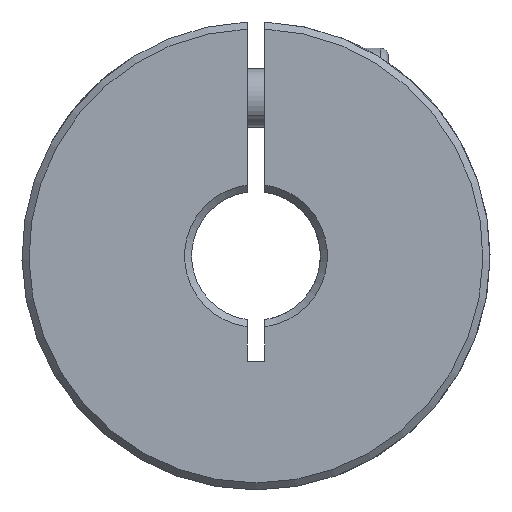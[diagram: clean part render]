
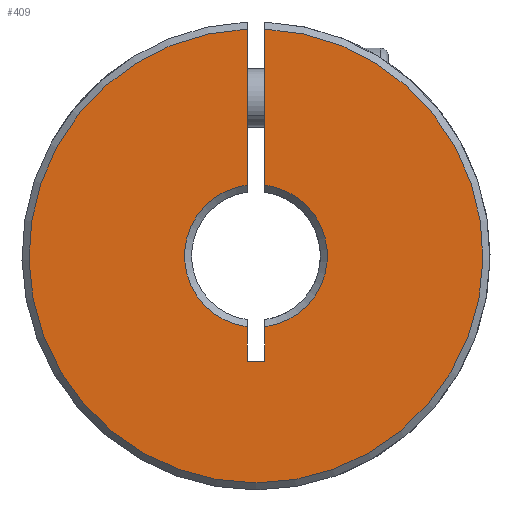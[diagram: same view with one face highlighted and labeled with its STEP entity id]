
A CAD part, front view. The second image highlights one B-rep face of the part: STEP entity #409.
In plain terms, the highlighted planar face has unit normal (0, -1, 0).
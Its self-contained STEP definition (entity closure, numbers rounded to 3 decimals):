
#32 = VERTEX_POINT ( 'NONE', #1285 ) ;
#354 = ORIENTED_EDGE ( 'NONE', *, *, #3869, .T. ) ;
#362 = DIRECTION ( 'NONE',  ( 0., 1., 0. ) ) ;
#372 = VECTOR ( 'NONE', #4100, 1000. ) ;
#395 = VERTEX_POINT ( 'NONE', #3963 ) ;
#409 = ADVANCED_FACE ( 'NONE', ( #3105 ), #5421, .F. ) ;
#468 = DIRECTION ( 'NONE',  ( 0., 0., -1. ) ) ;
#473 = LINE ( 'NONE', #4586, #372 ) ;
#527 = CARTESIAN_POINT ( 'NONE',  ( 0., -25., 0. ) ) ;
#556 = DIRECTION ( 'NONE',  ( 0., 0., 1. ) ) ;
#660 = DIRECTION ( 'NONE',  ( 0., 0., 1. ) ) ;
#698 = VERTEX_POINT ( 'NONE', #5739 ) ;
#835 = CARTESIAN_POINT ( 'NONE',  ( -0.75, -25., -9. ) ) ;
#937 = DIRECTION ( 'NONE',  ( 0., 0., 1. ) ) ;
#1014 = CIRCLE ( 'NONE', #4353, 6.1 ) ;
#1191 = LINE ( 'NONE', #835, #4418 ) ;
#1265 = VECTOR ( 'NONE', #660, 1000. ) ;
#1285 = CARTESIAN_POINT ( 'NONE',  ( -0.75, -25., -6.054 ) ) ;
#1354 = CARTESIAN_POINT ( 'NONE',  ( -0.75, -25., -9. ) ) ;
#1364 = ORIENTED_EDGE ( 'NONE', *, *, #3355, .T. ) ;
#1547 = AXIS2_PLACEMENT_3D ( 'NONE', #527, #3306, #556 ) ;
#1656 = VERTEX_POINT ( 'NONE', #1781 ) ;
#1671 = VERTEX_POINT ( 'NONE', #4898 ) ;
#1781 = CARTESIAN_POINT ( 'NONE',  ( 0.75, -25., 19.385 ) ) ;
#1842 = VERTEX_POINT ( 'NONE', #3813 ) ;
#2311 = ORIENTED_EDGE ( 'NONE', *, *, #2932, .T. ) ;
#2403 = VERTEX_POINT ( 'NONE', #2729 ) ;
#2592 = VECTOR ( 'NONE', #468, 1000. ) ;
#2634 = CARTESIAN_POINT ( 'NONE',  ( 0., -25., 0. ) ) ;
#2706 = CIRCLE ( 'NONE', #1547, 6.1 ) ;
#2729 = CARTESIAN_POINT ( 'NONE',  ( 0.75, -25., 6.054 ) ) ;
#2890 = EDGE_CURVE ( 'NONE', #32, #698, #1014, .T. ) ;
#2932 = EDGE_CURVE ( 'NONE', #698, #3553, #3710, .T. ) ;
#3015 = DIRECTION ( 'NONE',  ( -1., 0., 0. ) ) ;
#3105 = FACE_OUTER_BOUND ( 'NONE', #4152, .T. ) ;
#3171 = DIRECTION ( 'NONE',  ( 0., 0., 1. ) ) ;
#3306 = DIRECTION ( 'NONE',  ( 0., 1., 0. ) ) ;
#3343 = CARTESIAN_POINT ( 'NONE',  ( -0.75, -25., 19.385 ) ) ;
#3355 = EDGE_CURVE ( 'NONE', #1656, #2403, #473, .T. ) ;
#3432 = LINE ( 'NONE', #4282, #1265 ) ;
#3553 = VERTEX_POINT ( 'NONE', #3343 ) ;
#3604 = LINE ( 'NONE', #4983, #2592 ) ;
#3680 = ORIENTED_EDGE ( 'NONE', *, *, #4326, .T. ) ;
#3710 = LINE ( 'NONE', #1354, #5127 ) ;
#3813 = CARTESIAN_POINT ( 'NONE',  ( 0.75, -25., -9. ) ) ;
#3822 = DIRECTION ( 'NONE',  ( 0., 0., 1. ) ) ;
#3869 = EDGE_CURVE ( 'NONE', #1671, #1842, #3604, .T. ) ;
#3948 = EDGE_CURVE ( 'NONE', #2403, #1671, #2706, .T. ) ;
#3963 = CARTESIAN_POINT ( 'NONE',  ( -0.75, -25., -9. ) ) ;
#3987 = AXIS2_PLACEMENT_3D ( 'NONE', #5832, #4520, #3171 ) ;
#4100 = DIRECTION ( 'NONE',  ( 0., 0., -1. ) ) ;
#4152 = EDGE_LOOP ( 'NONE', ( #1364, #5878, #354, #5253, #5709, #4754, #2311, #3680 ) ) ;
#4282 = CARTESIAN_POINT ( 'NONE',  ( -0.75, -25., -9. ) ) ;
#4326 = EDGE_CURVE ( 'NONE', #3553, #1656, #5733, .T. ) ;
#4353 = AXIS2_PLACEMENT_3D ( 'NONE', #2634, #362, #4822 ) ;
#4418 = VECTOR ( 'NONE', #3015, 1000. ) ;
#4420 = EDGE_CURVE ( 'NONE', #395, #32, #3432, .T. ) ;
#4471 = EDGE_CURVE ( 'NONE', #1842, #395, #1191, .T. ) ;
#4520 = DIRECTION ( 'NONE',  ( 0., 1., 0. ) ) ;
#4586 = CARTESIAN_POINT ( 'NONE',  ( 0.75, -25., -9. ) ) ;
#4754 = ORIENTED_EDGE ( 'NONE', *, *, #2890, .T. ) ;
#4822 = DIRECTION ( 'NONE',  ( 0., 0., 1. ) ) ;
#4898 = CARTESIAN_POINT ( 'NONE',  ( 0.75, -25., -6.054 ) ) ;
#4983 = CARTESIAN_POINT ( 'NONE',  ( 0.75, -25., -9. ) ) ;
#4998 = CARTESIAN_POINT ( 'NONE',  ( 0., -25., 0. ) ) ;
#5127 = VECTOR ( 'NONE', #937, 1000. ) ;
#5242 = DIRECTION ( 'NONE',  ( 0., -1., 0. ) ) ;
#5253 = ORIENTED_EDGE ( 'NONE', *, *, #4471, .T. ) ;
#5421 = PLANE ( 'NONE',  #3987 ) ;
#5535 = AXIS2_PLACEMENT_3D ( 'NONE', #4998, #5242, #3822 ) ;
#5709 = ORIENTED_EDGE ( 'NONE', *, *, #4420, .T. ) ;
#5733 = CIRCLE ( 'NONE', #5535, 19.4 ) ;
#5739 = CARTESIAN_POINT ( 'NONE',  ( -0.75, -25., 6.054 ) ) ;
#5832 = CARTESIAN_POINT ( 'NONE',  ( 0., -25., 0. ) ) ;
#5878 = ORIENTED_EDGE ( 'NONE', *, *, #3948, .T. ) ;
